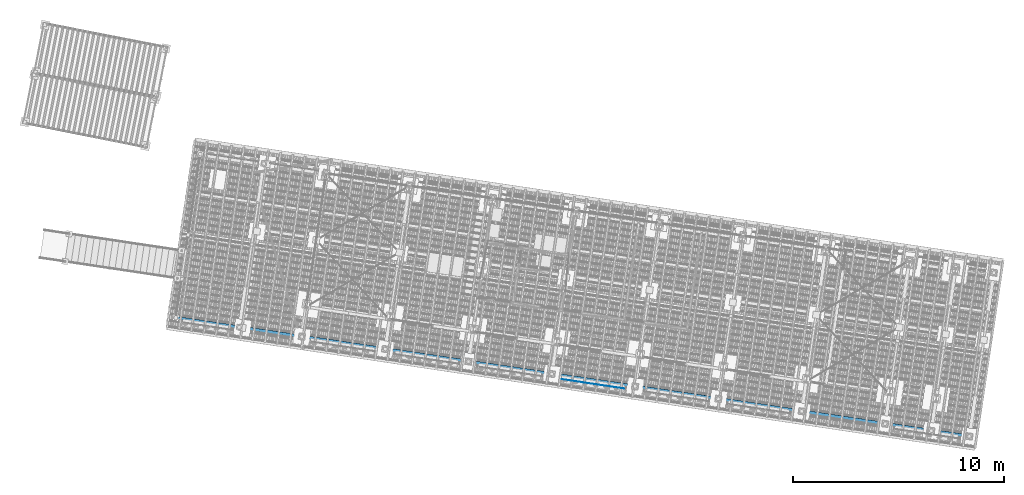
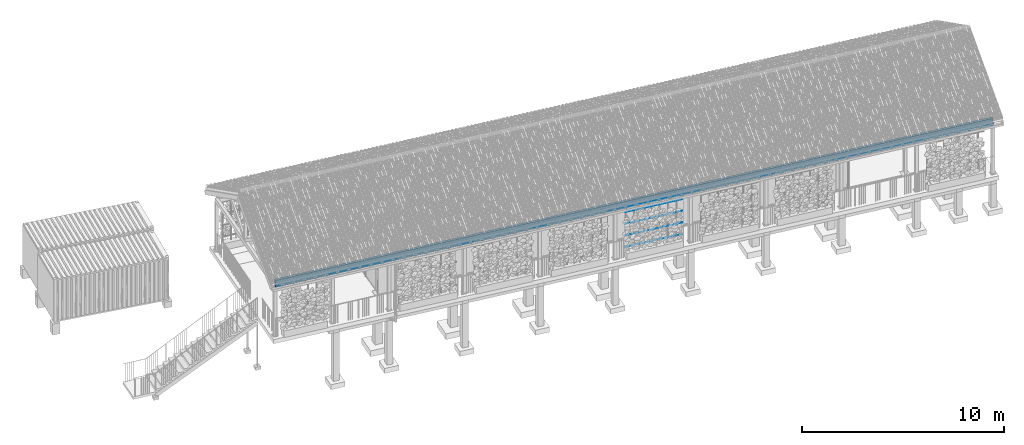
# One storey, part 63 of 131: 5 members, 2 beams, 3 elements without a shape of their own.
"""IFC4 building model written with IfcOpenShell, lengths in metres."""

from ifc_helpers import new_model, si_unit, direction, frame, origin_with_axes, place, context, subcontext, project, spatial, rectangle, circle, extrude, material, material_profile, profile_set, profile_usage, type_object, element, aggregate, save


model = new_model("IFC4")

# Units and contexts
model_context = context("Model", 3, precision=1e-05, world=origin_with_axes(), true_north=direction((0.0, 1.0)))
body_context = subcontext(model_context, "Body", "Model", "MODEL_VIEW")
ifc_project = project(units=[si_unit("VOLUMEUNIT", "CUBIC_METRE"), si_unit("LENGTHUNIT", "METRE"), si_unit("AREAUNIT", "SQUARE_METRE")], contexts=[model_context])

# Site, building, storey
site_placement = place(None, origin_with_axes())
site = spatial("IfcSite", under=ifc_project, at=site_placement, Name="Lares · Rua das Mercês · artigo 4771")
building_placement = place(site_placement, frame((15.0, 9.7, 15.8), z_axis=(0.0, 0.0, 1.0), x_axis=(0.989015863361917, -0.147809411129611, 0.0)))
building = spatial("IfcBuilding", under=site, at=building_placement, Name="Casa Sobreposta")
storey_placement = place(building_placement, origin_with_axes())
storey = spatial("IfcBuildingStorey", under=building, at=storey_placement, Name="00 · Habitação e estacionamento", Elevation=15.8)

# Assembly, beam
assembly_1_placement = place(storey_placement, origin_with_axes())
assembly_1 = element("IfcElementAssembly", 1, at=assembly_1_placement, inside=storey, Name="Varanda coberta · continuação integral da cobertura", ObjectType="COVERED_PODIUM_BALCONY", PredefinedType="USERDEFINED")
ifc_material_1 = material(Name="Madeira / Bauholz", Category="wood")
ifc_material_profile_1 = material_profile(ifc_material_1, rectangle(XDim=0.16, YDim=0.22))
ifc_profile_set_1 = profile_set([ifc_material_profile_1], Name="TIMBER0.160x0.220")
ifc_profile_usage_1 = profile_usage(ifc_profile_set_1)
beam_type_1 = type_object("IfcBeamType", Name="TIMBER0.160x0.220 / timber", PredefinedType="NOTDEFINED", material=ifc_profile_set_1)
beam_1_placement = place(assembly_1_placement, frame((-6.05, -1.43, 3.0), z_axis=(1.0, 0.0, 0.0), x_axis=(0.0, -1.0, 0.0)))
beam_1 = element("IfcBeam", 2, at=beam_1_placement, type_object=beam_type_1, material=ifc_profile_usage_1, Name="Varanda coberta · frechal", context=body_context, shape_type="SweptSolid", body=[
    extrude(rectangle(XDim=0.16, YDim=0.22), origin_with_axes(), (0.0, 0.0, 1.0), 38.1),
])
aggregate(assembly_1, [beam_1])

# Roof, beam
roof_placement = place(storey_placement, origin_with_axes())
roof = element("IfcRoof", 3, at=roof_placement, inside=storey, material=ifc_material_1, Name="Cobertura de telha · duas águas 30 graus", PredefinedType="GABLE_ROOF")
ifc_material_profile_2 = material_profile(ifc_material_1, rectangle(XDim=0.14, YDim=0.22))
ifc_profile_set_2 = profile_set([ifc_material_profile_2], Name="TIMBER0.140x0.220")
ifc_profile_usage_2 = profile_usage(ifc_profile_set_2)
beam_type_2 = type_object("IfcBeamType", Name="TIMBER0.140x0.220 / timber", PredefinedType="NOTDEFINED", material=ifc_profile_set_2)
beam_2_placement = place(roof_placement, frame((-6.05, -1.43, 3.20135462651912), z_axis=(1.0, 0.0, 0.0), x_axis=(0.0, -1.0, 0.0)))
beam_2 = element("IfcBeam", 4, at=beam_2_placement, type_object=beam_type_2, material=ifc_profile_usage_2, Name="Cobertura · terça", context=body_context, shape_type="SweptSolid", body=[
    extrude(rectangle(XDim=0.14, YDim=0.22), origin_with_axes(), (0.0, 0.0, 1.0), 38.1),
])
aggregate(roof, [beam_2])

# Assembly, members
assembly_2_placement = place(storey_placement, origin_with_axes())
assembly_2 = element("IfcElementAssembly", 5, at=assembly_2_placement, inside=storey, Name="Fachada sul e pátio · estrutura e trepadeiras", ObjectType="LIVING_SHADE_TRELLIS", PredefinedType="USERDEFINED")
ifc_material_2 = material(Name="Aço galvanizado / Stahl verzinkt", Category="steel")
ifc_material_profile_3 = material_profile(ifc_material_2, circle(Radius=0.002))
ifc_profile_set_3 = profile_set([ifc_material_profile_3], Name="D0.004")
ifc_profile_usage_3 = profile_usage(ifc_profile_set_3)
member_type = type_object("IfcMemberType", Name="D0.004 / galvanized", PredefinedType="NOTDEFINED", material=ifc_profile_set_3)
member_1_placement = place(assembly_2_placement, frame((12.5, -1.61, 0.65), z_axis=(1.0, 0.0, 0.0), x_axis=(0.0, -1.0, 0.0)))
member_1 = element("IfcMember", 6, at=member_1_placement, type_object=member_type, material=ifc_profile_usage_3, Name="Trepadeiras · fio horizontal", context=body_context, shape_type="SweptSolid", body=[
    extrude(circle(Radius=0.002), origin_with_axes(), (0.0, 0.0, 1.0), 3.0),
])
ifc_profile_usage_4 = profile_usage(ifc_profile_set_3)
member_2_placement = place(assembly_2_placement, frame((12.5, -1.61, 1.35), z_axis=(1.0, 0.0, 0.0), x_axis=(0.0, -1.0, 0.0)))
member_2 = element("IfcMember", 7, at=member_2_placement, type_object=member_type, material=ifc_profile_usage_4, Name="Trepadeiras · fio horizontal", context=body_context, shape_type="SweptSolid", body=[
    extrude(circle(Radius=0.002), origin_with_axes(), (0.0, 0.0, 1.0), 3.0),
])
ifc_profile_usage_5 = profile_usage(ifc_profile_set_3)
member_3_placement = place(assembly_2_placement, frame((12.5, -1.61, 2.05), z_axis=(1.0, 0.0, 0.0), x_axis=(0.0, -1.0, 0.0)))
member_3 = element("IfcMember", 8, at=member_3_placement, type_object=member_type, material=ifc_profile_usage_5, Name="Trepadeiras · fio horizontal", context=body_context, shape_type="SweptSolid", body=[
    extrude(circle(Radius=0.002), origin_with_axes(), (0.0, 0.0, 1.0), 3.0),
])
ifc_profile_usage_6 = profile_usage(ifc_profile_set_3)
member_4_placement = place(assembly_2_placement, frame((12.5, -1.61, 2.75), z_axis=(1.0, 0.0, 0.0), x_axis=(0.0, -1.0, 0.0)))
member_4 = element("IfcMember", 9, at=member_4_placement, type_object=member_type, material=ifc_profile_usage_6, Name="Trepadeiras · fio horizontal", context=body_context, shape_type="SweptSolid", body=[
    extrude(circle(Radius=0.002), origin_with_axes(), (0.0, 0.0, 1.0), 3.0),
])
ifc_profile_usage_7 = profile_usage(ifc_profile_set_3)
member_5_placement = place(assembly_2_placement, frame((12.5, -1.61, 3.05), z_axis=(1.0, 0.0, 0.0), x_axis=(0.0, -1.0, 0.0)))
member_5 = element("IfcMember", 10, at=member_5_placement, type_object=member_type, material=ifc_profile_usage_7, Name="Trepadeiras · fio horizontal", context=body_context, shape_type="SweptSolid", body=[
    extrude(circle(Radius=0.002), origin_with_axes(), (0.0, 0.0, 1.0), 3.0),
])
aggregate(assembly_2, [member_1, member_2, member_3, member_4, member_5])

save(model, "model.ifc")
